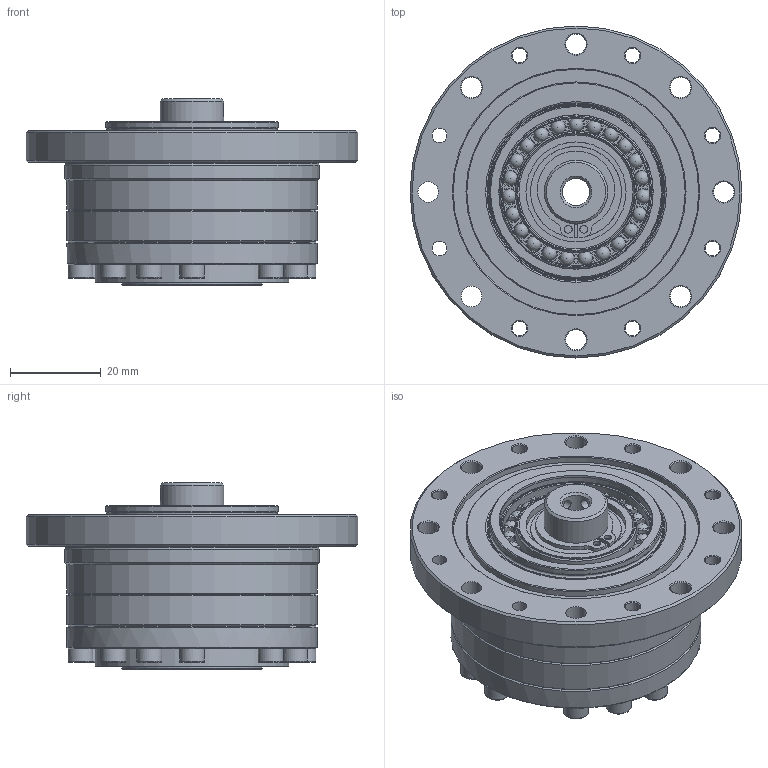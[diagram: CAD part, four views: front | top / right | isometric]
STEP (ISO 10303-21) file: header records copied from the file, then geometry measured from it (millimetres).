
FILE_DESCRIPTION(/* description */ (''),/* implementation_level */ '2;1');
FILE_NAME(/* name */ 'S:\TB00F\研發課二組\機密級\97.\X2\540C4EC151714EAB5340\X0\ (機密級)\H11\欣怡\2023專案追蹤\2.型錄\模型\\X2\5B987DB2\X0\3D檔(NEW)\DGC-PO\DGC-14-XX-PO.stp',/* time_stamp */ '2024-09-13T08:41:00+08:00',/* author */ ('bb1128.zheng'),/* organization */ (''),/* preprocessor_version */ 'ST-DEVELOPER v15.2',/* originating_system */ 'Autodesk Inventor 2014',/* authorisation */ '');
FILE_SCHEMA (('AUTOMOTIVE_DESIGN { 1 0 10303 214 3 1 1 }'));
Length unit declared in the file: centimetre
Products named in the file (1): DGC-14-PO
Bounding box: 73 x 73 x 41 mm (x, y, z)
Volume: 79989.9 mm3; surface area: 25383.5 mm2
Topology: 1 solids, 15 shells, 737 faces, 1775 edges, 1102 vertices
Faces by surface type: plane 293, cylinder 205, cone 132, torus 82, sphere 23, bspline 2
Full cylindrical faces by diameter (mm): 1.7 x2, 2 x3, 2.459 x2, 2.5 x6, 3.242 x20, 4 x6, 4.5 x14, 5.5 x12, 6 x1, 7 x6, 8 x1, 11 x2, 13.4 x1, 14 x2, 14.1 x1, 14.5 x1, 20 x1, 22 x1, 24 x1, 24.5 x1, 25.07 x1, 26.67 x1, 28.4 x1, 29.8 x1, 30 x1, 31 x1, 32.37 x1, 33.675 x1, 33.89 x1, 38 x1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
Entity records: 19745 total; most frequent: CARTESIAN_POINT 3752, DIRECTION 3474, ORIENTED_EDGE 2746, AXIS2_PLACEMENT_3D 1545, EDGE_CURVE 1327, EDGE_LOOP 1122, VERTEX_POINT 943, CIRCLE 805
